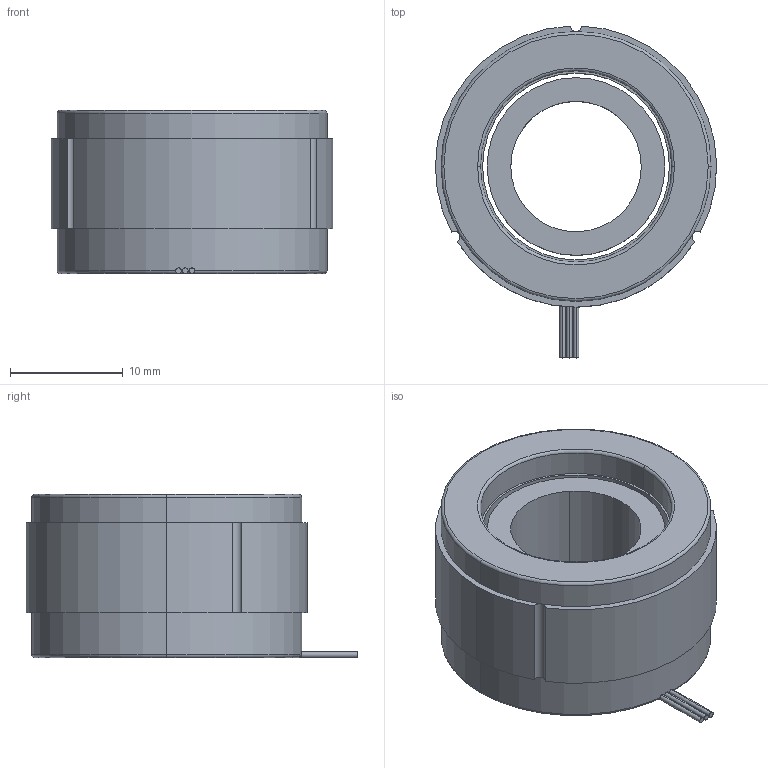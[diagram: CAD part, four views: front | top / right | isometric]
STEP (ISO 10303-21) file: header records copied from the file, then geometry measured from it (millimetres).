
FILE_DESCRIPTION (( 'STEP AP203' ), '1' );
FILE_NAME ('RI20 3D 馱最芞.STEP', '2026-08-13T07:20:53', ( '' ), ( '' ), 'SwSTEP 2.0', 'SolidWorks 2022', '' );
FILE_SCHEMA (( 'CONFIG_CONTROL_DESIGN' ));
Length unit declared in the file: millimetre
Products named in the file (3): BJJ02030816-RI2508钢圈-加高版-A.step; C0104000778-T006-2508-内转铁芯-12槽; RI20 3D 工程图
Assembly tree (2 placements, depth 2):
  RI20 3D 工程图
    C0104000778-T006-2508-内转铁芯-12槽
    BJJ02030816-RI2508钢圈-加高版-A.step
Bounding box: 25 x 29.49 x 14.5 mm (x, y, z)
Volume: 4554.7 mm3; surface area: 3481.2 mm2
Topology: 5 solids, 5 shells, 54 faces, 112 edges, 70 vertices
Faces by surface type: cylinder 28, plane 18, torus 8
Entity records: 1775 total; most frequent: DIRECTION 314, CARTESIAN_POINT 241, ORIENTED_EDGE 224, AXIS2_PLACEMENT_3D 143, EDGE_CURVE 112, CIRCLE 84, VERTEX_POINT 70, EDGE_LOOP 60
